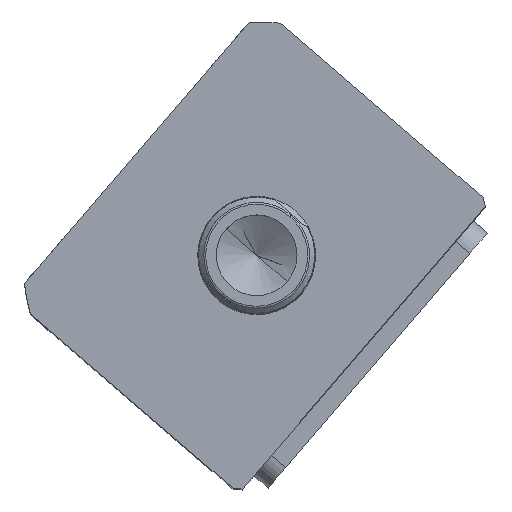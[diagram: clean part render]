
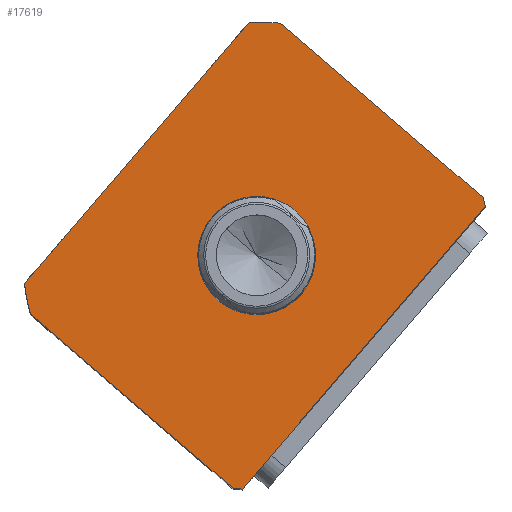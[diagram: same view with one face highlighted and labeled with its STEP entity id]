
A CAD part, top view. The second image highlights one B-rep face of the part: STEP entity #17619.
In plain terms, the highlighted planar face has unit normal (0, 0, 1) as drawn and (0, 0, -1) by its records, which use the part's own axes.
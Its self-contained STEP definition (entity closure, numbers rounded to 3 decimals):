
#381 = VERTEX_POINT ( 'NONE', #7722 ) ;
#631 = DIRECTION ( 'NONE',  ( 0., 0., 1. ) ) ;
#726 = ORIENTED_EDGE ( 'NONE', *, *, #14424, .F. ) ;
#766 = VERTEX_POINT ( 'NONE', #14076 ) ;
#845 = EDGE_CURVE ( 'NONE', #7522, #15422, #16121, .T. ) ;
#905 = CIRCLE ( 'NONE', #5098, 69.5 ) ;
#1022 = DIRECTION ( 'NONE',  ( -1., 0., 0. ) ) ;
#1399 = DIRECTION ( 'NONE',  ( 1., 0., 0. ) ) ;
#1462 = EDGE_CURVE ( 'NONE', #17321, #12503, #7075, .T. ) ;
#1588 = LINE ( 'NONE', #2549, #4992 ) ;
#1610 = CARTESIAN_POINT ( 'NONE',  ( 51.198, -106.497, 0. ) ) ;
#1671 = CARTESIAN_POINT ( 'NONE',  ( -17.5, -59.497, 0. ) ) ;
#1936 = EDGE_CURVE ( 'NONE', #8231, #381, #5928, .T. ) ;
#2129 = VECTOR ( 'NONE', #17357, 1000. ) ;
#2505 = CARTESIAN_POINT ( 'NONE',  ( 0., -59.497, 0. ) ) ;
#2549 = CARTESIAN_POINT ( 'NONE',  ( 57., -17.497, 0. ) ) ;
#2615 = CIRCLE ( 'NONE', #3261, 69.5 ) ;
#2634 = CARTESIAN_POINT ( 'NONE',  ( -57., -17.497, 0. ) ) ;
#2650 = DIRECTION ( 'NONE',  ( 0., 0., 1. ) ) ;
#2764 = EDGE_LOOP ( 'NONE', ( #16570, #13413 ) ) ;
#2787 = EDGE_CURVE ( 'NONE', #16187, #17321, #905, .T. ) ;
#2822 = DIRECTION ( 'NONE',  ( 0., -1., 0. ) ) ;
#3138 = EDGE_CURVE ( 'NONE', #766, #16187, #1588, .T. ) ;
#3261 = AXIS2_PLACEMENT_3D ( 'NONE', #2505, #12642, #3966 ) ;
#3966 = DIRECTION ( 'NONE',  ( 1., 0., 0. ) ) ;
#4504 = CARTESIAN_POINT ( 'NONE',  ( 55.374, -17.497, 0. ) ) ;
#4580 = VECTOR ( 'NONE', #2822, 1000. ) ;
#4599 = CARTESIAN_POINT ( 'NONE',  ( -57., -19.732, 0. ) ) ;
#4992 = VECTOR ( 'NONE', #5482, 1000. ) ;
#5098 = AXIS2_PLACEMENT_3D ( 'NONE', #7718, #17839, #9169 ) ;
#5263 = EDGE_LOOP ( 'NONE', ( #6632, #18627, #15216, #726, #12736, #13640, #17953, #7784 ) ) ;
#5482 = DIRECTION ( 'NONE',  ( 0., 1., 0. ) ) ;
#5871 = CARTESIAN_POINT ( 'NONE',  ( 57., -19.732, 0. ) ) ;
#5928 = CIRCLE ( 'NONE', #14541, 17.5 ) ;
#6632 = ORIENTED_EDGE ( 'NONE', *, *, #2787, .F. ) ;
#6681 = CARTESIAN_POINT ( 'NONE',  ( -55.374, -17.497, 0. ) ) ;
#6766 = DIRECTION ( 'NONE',  ( 0., 0., 1. ) ) ;
#6773 = AXIS2_PLACEMENT_3D ( 'NONE', #11323, #2650, #12774 ) ;
#7075 = LINE ( 'NONE', #8239, #10012 ) ;
#7522 = VERTEX_POINT ( 'NONE', #4599 ) ;
#7534 = AXIS2_PLACEMENT_3D ( 'NONE', #18740, #10086, #1399 ) ;
#7576 = CARTESIAN_POINT ( 'NONE',  ( 0., -59.497, 0. ) ) ;
#7718 = CARTESIAN_POINT ( 'NONE',  ( 0., -59.497, 0. ) ) ;
#7722 = CARTESIAN_POINT ( 'NONE',  ( 17.5, -59.497, 0. ) ) ;
#7784 = ORIENTED_EDGE ( 'NONE', *, *, #1462, .F. ) ;
#8231 = VERTEX_POINT ( 'NONE', #1671 ) ;
#8239 = CARTESIAN_POINT ( 'NONE',  ( -57., -17.497, 0. ) ) ;
#8251 = EDGE_CURVE ( 'NONE', #16200, #766, #8748, .T. ) ;
#8489 = AXIS2_PLACEMENT_3D ( 'NONE', #7576, #17693, #9030 ) ;
#8738 = EDGE_CURVE ( 'NONE', #12503, #7522, #2615, .T. ) ;
#8748 = CIRCLE ( 'NONE', #8489, 69.5 ) ;
#9030 = DIRECTION ( 'NONE',  ( 1., 0., 0. ) ) ;
#9169 = DIRECTION ( 'NONE',  ( 1., 0., 0. ) ) ;
#9309 = PLANE ( 'NONE',  #12972 ) ;
#9320 = FACE_BOUND ( 'NONE', #2764, .T. ) ;
#10012 = VECTOR ( 'NONE', #1022, 1000. ) ;
#10086 = DIRECTION ( 'NONE',  ( 0., 0., 1. ) ) ;
#10763 = DIRECTION ( 'NONE',  ( 1., 0., 0. ) ) ;
#11323 = CARTESIAN_POINT ( 'NONE',  ( 0., -59.497, 0. ) ) ;
#11625 = VERTEX_POINT ( 'NONE', #15777 ) ;
#11803 = FACE_OUTER_BOUND ( 'NONE', #5263, .T. ) ;
#12101 = CIRCLE ( 'NONE', #6773, 69.5 ) ;
#12503 = VERTEX_POINT ( 'NONE', #6681 ) ;
#12642 = DIRECTION ( 'NONE',  ( 0., 0., 1. ) ) ;
#12736 = ORIENTED_EDGE ( 'NONE', *, *, #13707, .F. ) ;
#12774 = DIRECTION ( 'NONE',  ( 1., 0., 0. ) ) ;
#12972 = AXIS2_PLACEMENT_3D ( 'NONE', #17913, #631, #10763 ) ;
#13341 = CARTESIAN_POINT ( 'NONE',  ( -57., -99.262, 0. ) ) ;
#13413 = ORIENTED_EDGE ( 'NONE', *, *, #1936, .T. ) ;
#13640 = ORIENTED_EDGE ( 'NONE', *, *, #845, .F. ) ;
#13674 = LINE ( 'NONE', #15909, #2129 ) ;
#13707 = EDGE_CURVE ( 'NONE', #15422, #11625, #12101, .T. ) ;
#14076 = CARTESIAN_POINT ( 'NONE',  ( 57., -99.262, 0. ) ) ;
#14424 = EDGE_CURVE ( 'NONE', #11625, #16200, #13674, .T. ) ;
#14541 = AXIS2_PLACEMENT_3D ( 'NONE', #15418, #6766, #16882 ) ;
#15216 = ORIENTED_EDGE ( 'NONE', *, *, #8251, .F. ) ;
#15418 = CARTESIAN_POINT ( 'NONE',  ( 0., -59.497, 0. ) ) ;
#15422 = VERTEX_POINT ( 'NONE', #13341 ) ;
#15424 = CIRCLE ( 'NONE', #7534, 17.5 ) ;
#15777 = CARTESIAN_POINT ( 'NONE',  ( -51.198, -106.497, 0. ) ) ;
#15909 = CARTESIAN_POINT ( 'NONE',  ( -57., -106.497, 0. ) ) ;
#16121 = LINE ( 'NONE', #2634, #4580 ) ;
#16187 = VERTEX_POINT ( 'NONE', #5871 ) ;
#16200 = VERTEX_POINT ( 'NONE', #1610 ) ;
#16570 = ORIENTED_EDGE ( 'NONE', *, *, #17093, .T. ) ;
#16882 = DIRECTION ( 'NONE',  ( 1., 0., 0. ) ) ;
#17093 = EDGE_CURVE ( 'NONE', #381, #8231, #15424, .T. ) ;
#17321 = VERTEX_POINT ( 'NONE', #4504 ) ;
#17357 = DIRECTION ( 'NONE',  ( 1., 0., 0. ) ) ;
#17619 = ADVANCED_FACE ( 'NONE', ( #9320, #11803 ), #9309, .F. ) ;
#17693 = DIRECTION ( 'NONE',  ( 0., 0., 1. ) ) ;
#17839 = DIRECTION ( 'NONE',  ( 0., 0., 1. ) ) ;
#17913 = CARTESIAN_POINT ( 'NONE',  ( 0., 0., 0. ) ) ;
#17953 = ORIENTED_EDGE ( 'NONE', *, *, #8738, .F. ) ;
#18627 = ORIENTED_EDGE ( 'NONE', *, *, #3138, .F. ) ;
#18740 = CARTESIAN_POINT ( 'NONE',  ( 0., -59.497, 0. ) ) ;
